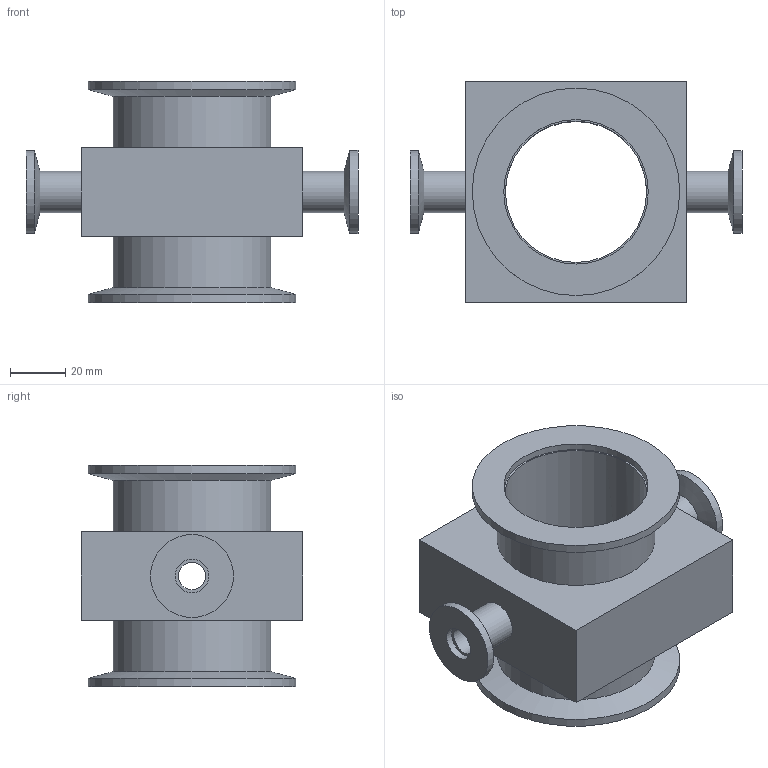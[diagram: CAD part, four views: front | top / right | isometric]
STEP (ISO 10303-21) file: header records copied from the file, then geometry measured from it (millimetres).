
FILE_DESCRIPTION( ( 'Unknown' ), '1' );
FILE_NAME( 'X:/Daten ( aktueller Bestand )/Projekte und Zeichnungen/Solid Edge/1 Kleinflanschverzweigungen/Alu/Reduzierkreuzstück Alu/1045.stp', 'Unknown', ( 'Unknown' ), ( 'Unknown' ), 'XStep 1.0', 'Unknown', ' ' );
FILE_SCHEMA( ( 'automotive_design' ) );
Length unit declared in the file: millimetre
Products named in the file (1): 1
Bounding box: 120 x 80 x 80 mm (x, y, z)
Volume: 184428.8 mm3; surface area: 53497.4 mm2
Topology: 1 solids, 1 shells, 33 faces, 65 edges, 41 vertices
Faces by surface type: cylinder 15, plane 14, cone 4
Full cylindrical faces by diameter (mm): 10 x2, 12.2 x2, 15 x2, 30 x2, 51 x1, 52.2 x2, 57 x2, 75 x2
Entity records: 1162 total; most frequent: CARTESIAN_POINT 264, DIRECTION 136, ORIENTED_EDGE 84, EDGE_LOOP 66, AXIS2_PLACEMENT_3D 62, FACE_OUTER_BOUND 48, EDGE_CURVE 42, VERTEX_POINT 38
